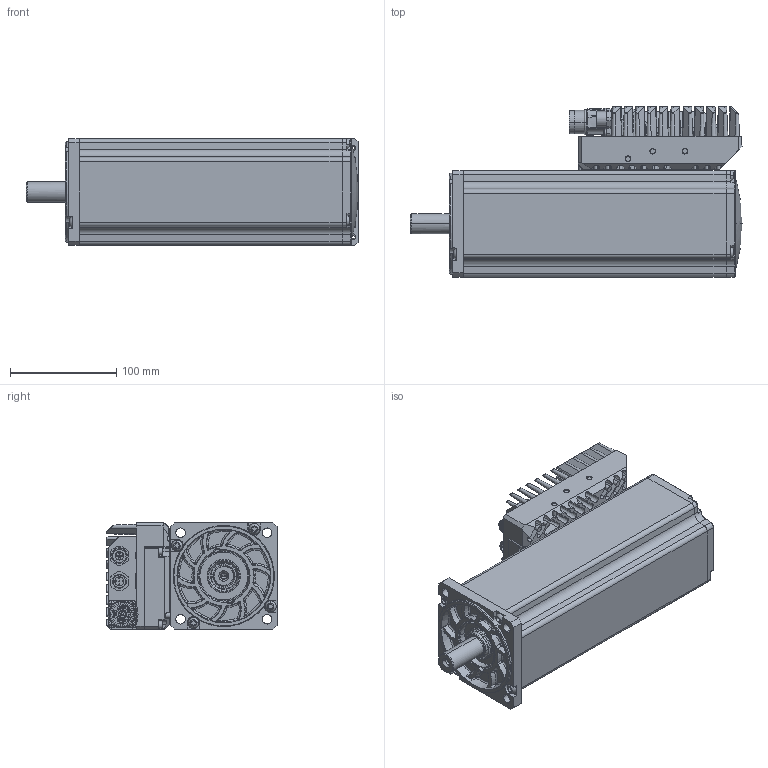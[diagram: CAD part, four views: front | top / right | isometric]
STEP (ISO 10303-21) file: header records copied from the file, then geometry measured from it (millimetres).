
FILE_DESCRIPTION((''),'2;1');
FILE_NAME('60897N-0_SW0001','2015-09-09T',('hegenwang'),(''),'PRO/ENGINEER BY PARAMETRIC TECHNOLOGY CORPORATION, 2010430','PRO/ENGINEER BY PARAMETRIC TECHNOLOGY CORPORATION, 2010430','');
FILE_SCHEMA(('AUTOMOTIVE_DESIGN_CC2 { 1 2 10303 214 -1 1 5 2 }'));
Products named in the file (1): 60897N-0_SW0001
Bounding box: 312 x 159.8 x 100 mm (x, y, z)
Surface area: 260527.1 mm2 (no closed solid volume)
Topology: 0 solids, 111 shells, 1756 faces, 5370 edges, 3765 vertices
Faces by surface type: plane 786, cone 381, cylinder 336, bspline 94, torus 87, sphere 68, extrusion 4
Entity records: 97205 total; most frequent: CARTESIAN_POINT 24575, DIRECTION 9686, ORIENTED_EDGE 9355, PRESENTATION_STYLE_ASSIGNMENT 6617, STYLED_ITEM 5368, CURVE_STYLE 5330, EDGE_CURVE 5330, VERTEX_POINT 3765
